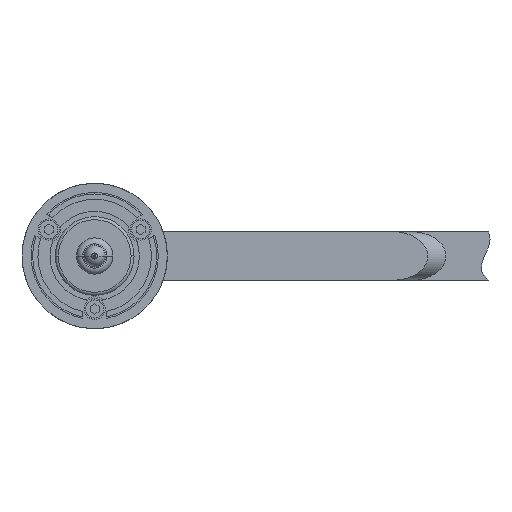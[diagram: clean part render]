
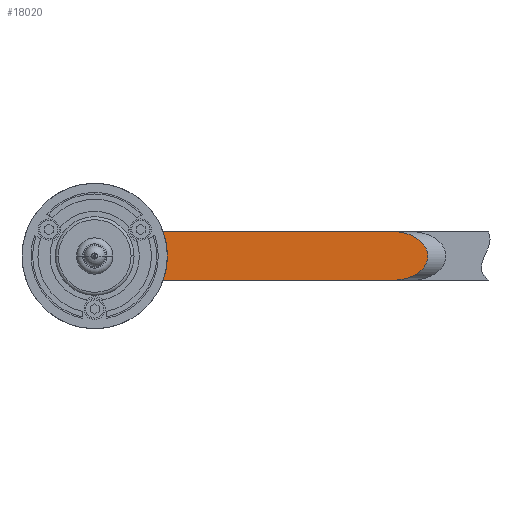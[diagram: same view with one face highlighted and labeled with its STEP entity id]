
A CAD part, front view. The second image highlights one B-rep face of the part: STEP entity #18020.
In plain terms, the highlighted planar face has unit normal (0, -1, 0).
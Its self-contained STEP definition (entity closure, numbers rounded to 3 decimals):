
#17373=CARTESIAN_POINT('',(0.,-14.,0.));
#17374=DIRECTION('',(0.,1.,0.));
#17375=DIRECTION('',(0.943,0.,0.333));
#17376=AXIS2_PLACEMENT_3D('',#17373,#17374,#17375);
#17391=CARTESIAN_POINT('',(98.686,-14.,-8.));
#17392=CARTESIAN_POINT('',(100.02,-14.,-8.));
#17393=CARTESIAN_POINT('',(102.9,-14.,-7.659));
#17394=CARTESIAN_POINT('',(106.926,-14.,-5.824));
#17395=CARTESIAN_POINT('',(109.084,-14.,-3.458));
#17396=CARTESIAN_POINT('',(109.881,-14.,-1.445));
#17397=CARTESIAN_POINT('',(110.059,-14.,0.));
#17398=CARTESIAN_POINT('',(109.881,-14.,1.445));
#17399=CARTESIAN_POINT('',(109.084,-14.,3.458));
#17400=CARTESIAN_POINT('',(106.926,-14.,5.824));
#17401=CARTESIAN_POINT('',(102.9,-14.,7.659));
#17402=CARTESIAN_POINT('',(100.02,-14.,8.));
#17403=CARTESIAN_POINT('',(98.686,-14.,8.));
#17405=DIRECTION('',(1.,0.,0.));
#17406=VECTOR('',#17405,76.059);
#17407=CARTESIAN_POINT('',(22.627,-14.,-8.));
#17408=LINE('',#17407,#17406);
#17409=DIRECTION('',(-1.,0.,0.));
#17410=VECTOR('',#17409,76.059);
#17411=CARTESIAN_POINT('',(98.686,-14.,8.));
#17412=LINE('',#17411,#17410);
#17520=CARTESIAN_POINT('',(0.,-14.,0.));
#17521=DIRECTION('',(0.,1.,0.));
#17522=DIRECTION('',(1.,0.,0.));
#17523=AXIS2_PLACEMENT_3D('',#17520,#17521,#17522);
#17649=CARTESIAN_POINT('',(24.,-14.,0.));
#17650=CARTESIAN_POINT('',(22.627,-14.,-8.));
#17651=VERTEX_POINT('',#17649);
#17652=VERTEX_POINT('',#17650);
#17653=CARTESIAN_POINT('',(22.627,-14.,8.));
#17654=VERTEX_POINT('',#17653);
#17655=VERTEX_POINT('',#17391);
#17656=VERTEX_POINT('',#17403);
#18004=CARTESIAN_POINT('',(0.,-14.,0.));
#18005=DIRECTION('',(0.,-1.,0.));
#18006=DIRECTION('',(1.,0.,0.));
#18007=AXIS2_PLACEMENT_3D('',#18004,#18005,#18006);
#18008=PLANE('',#18007);
#18010=ORIENTED_EDGE('',*,*,#18009,.F.);
#18012=ORIENTED_EDGE('',*,*,#18011,.F.);
#18014=ORIENTED_EDGE('',*,*,#18013,.F.);
#18015=ORIENTED_EDGE('',*,*,#17990,.F.);
#18017=ORIENTED_EDGE('',*,*,#18016,.F.);
#18018=EDGE_LOOP('',(#18010,#18012,#18014,#18015,#18017));
#18019=FACE_OUTER_BOUND('',#18018,.F.);
#18020=ADVANCED_FACE('',(#18019),#18008,.T.);
#17377=CIRCLE('',#17376,24.);
#17404=B_SPLINE_CURVE_WITH_KNOTS('',3,(#17391,#17392,#17393,#17394,#17395,
#17396,#17397,#17398,#17399,#17400,#17401,#17402,#17403),.UNSPECIFIED.,.F.,.F.,(
4,1,1,1,1,1,1,1,1,1,4),(0.,0.125,0.25,0.375,0.438,0.5,0.563,
0.625,0.75,0.875,1.),.UNSPECIFIED.);
#17524=CIRCLE('',#17523,24.);
#17990=EDGE_CURVE('',#17654,#17651,#17377,.T.);
#18009=EDGE_CURVE('',#17655,#17656,#17404,.T.);
#18011=EDGE_CURVE('',#17652,#17655,#17408,.T.);
#18013=EDGE_CURVE('',#17651,#17652,#17524,.T.);
#18016=EDGE_CURVE('',#17656,#17654,#17412,.T.);
